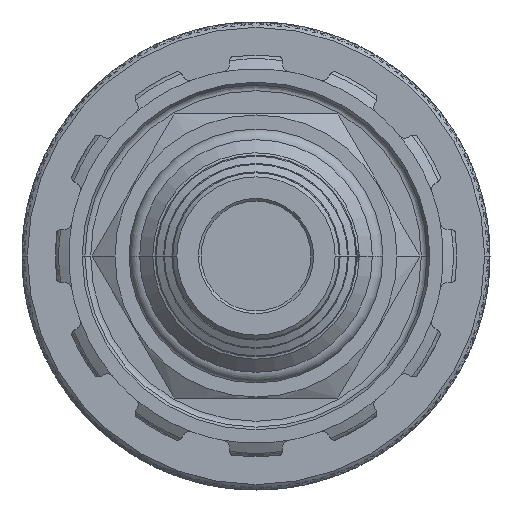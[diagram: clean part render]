
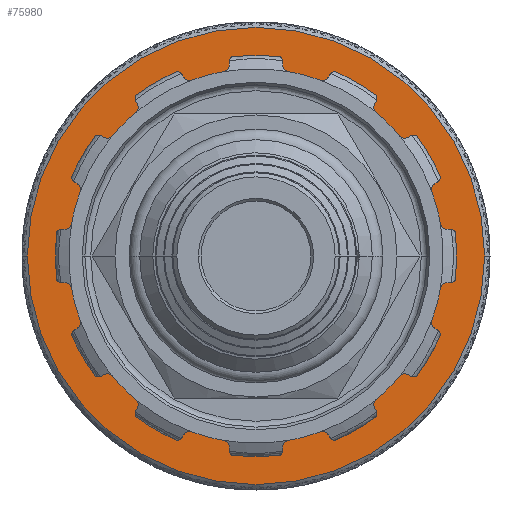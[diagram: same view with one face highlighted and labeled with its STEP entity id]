
A CAD part, front view. The second image highlights one B-rep face of the part: STEP entity #75980.
In plain terms, the highlighted planar face has unit normal (0, -1, 0).
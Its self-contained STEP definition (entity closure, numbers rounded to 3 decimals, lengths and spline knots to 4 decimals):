
#24400=CARTESIAN_POINT('',(0.,1.933,0.));
#24401=DIRECTION('',(0.,-1.,0.));
#24402=DIRECTION('',(0.,0.,-1.));
#24403=AXIS2_PLACEMENT_3D('',#24400,#24401,#24402);
#24415=CARTESIAN_POINT('',(0.,1.933,0.));
#24416=DIRECTION('',(0.,1.,0.));
#24417=DIRECTION('',(-1.,0.,0.));
#24418=AXIS2_PLACEMENT_3D('',#24415,#24416,#24417);
#24423=CARTESIAN_POINT('',(0.,1.933,0.));
#24424=DIRECTION('',(0.,1.,0.));
#24425=DIRECTION('',(1.,0.,0.));
#24426=AXIS2_PLACEMENT_3D('',#24423,#24424,#24425);
#64137=CARTESIAN_POINT('',(0.,1.933,0.));
#64138=DIRECTION('',(0.,-1.,0.));
#64139=DIRECTION('',(0.,0.,1.));
#64140=AXIS2_PLACEMENT_3D('',#64137,#64138,#64139);
#64474=CARTESIAN_POINT('',(-0.855,1.933,0.));
#64475=CARTESIAN_POINT('',(0.855,1.933,0.));
#64476=VERTEX_POINT('',#64474);
#64477=VERTEX_POINT('',#64475);
#67530=CARTESIAN_POINT('',(0.,1.933,-0.261));
#67531=CARTESIAN_POINT('',(0.,1.933,0.261));
#67532=VERTEX_POINT('',#67530);
#67533=VERTEX_POINT('',#67531);
#75964=CARTESIAN_POINT('',(0.,1.933,0.));
#75965=DIRECTION('',(0.,-1.,0.));
#75966=DIRECTION('',(-1.,0.,0.));
#75967=AXIS2_PLACEMENT_3D('',#75964,#75965,#75966);
#75968=PLANE('',#75967);
#75970=ORIENTED_EDGE('',*,*,#75969,.T.);
#75972=ORIENTED_EDGE('',*,*,#75971,.T.);
#75973=EDGE_LOOP('',(#75970,#75972));
#75974=FACE_OUTER_BOUND('',#75973,.F.);
#75975=ORIENTED_EDGE('',*,*,#75954,.T.);
#75977=ORIENTED_EDGE('',*,*,#75976,.T.);
#75978=EDGE_LOOP('',(#75975,#75977));
#75979=FACE_BOUND('',#75978,.F.);
#24404=CIRCLE('',#24403,0.261);
#24419=CIRCLE('',#24418,0.855);
#24427=CIRCLE('',#24426,0.855);
#64141=CIRCLE('',#64140,0.261);
#75954=EDGE_CURVE('',#67532,#67533,#24404,.T.);
#75969=EDGE_CURVE('',#64476,#64477,#24419,.T.);
#75971=EDGE_CURVE('',#64477,#64476,#24427,.T.);
#75976=EDGE_CURVE('',#67533,#67532,#64141,.T.);
#75980=ADVANCED_FACE('',(#75974,#75979),#75968,.T.);
